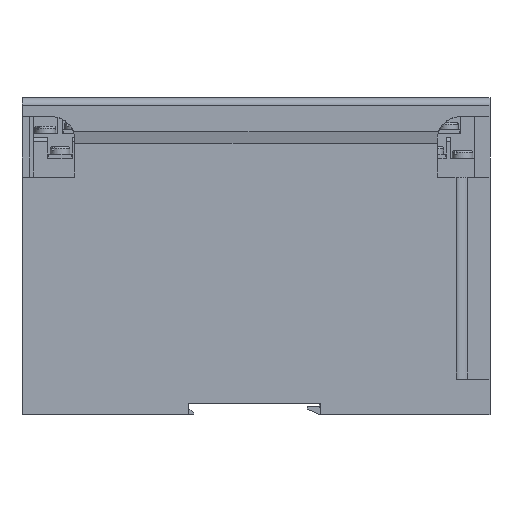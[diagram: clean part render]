
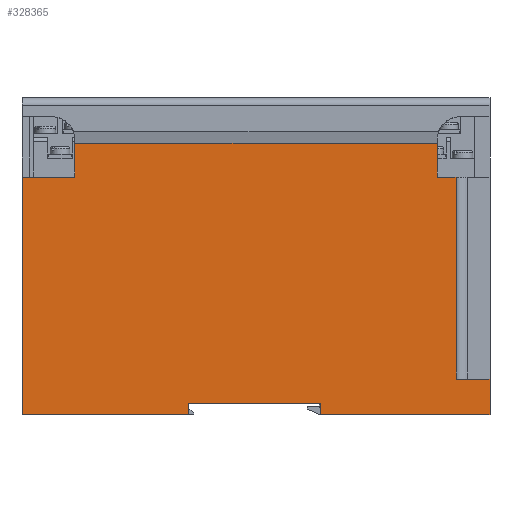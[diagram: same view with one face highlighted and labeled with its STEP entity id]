
A CAD part, left-side view. The second image highlights one B-rep face of the part: STEP entity #328365.
In plain terms, the highlighted planar face has unit normal (-1, 0, 0).
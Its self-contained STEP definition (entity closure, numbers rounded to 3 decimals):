
#834 = VERTEX_POINT ( 'NONE', #414222 ) ;
#7933 = EDGE_CURVE ( 'NONE', #110928, #61421, #341627, .T. ) ;
#12818 = LINE ( 'NONE', #348742, #239917 ) ;
#14065 = CARTESIAN_POINT ( 'NONE',  ( -52.5, 110., 72. ) ) ;
#14169 = EDGE_CURVE ( 'NONE', #77031, #338406, #403733, .T. ) ;
#16074 = EDGE_LOOP ( 'NONE', ( #257145, #261498, #347601, #30390, #51347, #343280, #412322, #134160, #89285, #329734, #202157, #258445, #170544, #395164 ) ) ;
#18029 = EDGE_CURVE ( 'NONE', #64920, #262739, #39660, .T. ) ;
#24017 = VECTOR ( 'NONE', #285442, 1000. ) ;
#25342 = CARTESIAN_POINT ( 'NONE',  ( -52.5, 0., 84. ) ) ;
#28852 = VECTOR ( 'NONE', #147006, 1000. ) ;
#30390 = ORIENTED_EDGE ( 'NONE', *, *, #7933, .T. ) ;
#31669 = LINE ( 'NONE', #358726, #264518 ) ;
#32702 = VECTOR ( 'NONE', #136306, 1000. ) ;
#37674 = EDGE_CURVE ( 'NONE', #282226, #419382, #92236, .T. ) ;
#39660 = LINE ( 'NONE', #286192, #28852 ) ;
#47182 = CARTESIAN_POINT ( 'NONE',  ( -52.5, 45., 3. ) ) ;
#48442 = DIRECTION ( 'NONE',  ( 0., 0., -1. ) ) ;
#50079 = EDGE_CURVE ( 'NONE', #123534, #77031, #12818, .T. ) ;
#50552 = CARTESIAN_POINT ( 'NONE',  ( -52.5, 110., 72. ) ) ;
#51347 = ORIENTED_EDGE ( 'NONE', *, *, #405281, .T. ) ;
#55424 = CARTESIAN_POINT ( 'NONE',  ( -52.5, 80., 0. ) ) ;
#60797 = CARTESIAN_POINT ( 'NONE',  ( -52.5, 110., 72. ) ) ;
#61421 = VERTEX_POINT ( 'NONE', #143880 ) ;
#64788 = CARTESIAN_POINT ( 'NONE',  ( -52.5, 0., 0. ) ) ;
#64920 = VERTEX_POINT ( 'NONE', #204082 ) ;
#77031 = VERTEX_POINT ( 'NONE', #314092 ) ;
#82769 = EDGE_CURVE ( 'NONE', #420442, #282226, #31669, .T. ) ;
#84180 = CARTESIAN_POINT ( 'NONE',  ( -52.5, 45., 3. ) ) ;
#84481 = CARTESIAN_POINT ( 'NONE',  ( -52.5, 0., 0. ) ) ;
#87277 = LINE ( 'NONE', #64788, #173807 ) ;
#89285 = ORIENTED_EDGE ( 'NONE', *, *, #18029, .T. ) ;
#92236 = LINE ( 'NONE', #194171, #32702 ) ;
#95395 = VECTOR ( 'NONE', #194078, 1000. ) ;
#95518 = VERTEX_POINT ( 'NONE', #55424 ) ;
#98196 = LINE ( 'NONE', #316410, #173828 ) ;
#108280 = LINE ( 'NONE', #211743, #319191 ) ;
#110928 = VERTEX_POINT ( 'NONE', #84180 ) ;
#111194 = VECTOR ( 'NONE', #425215, 1000. ) ;
#123534 = VERTEX_POINT ( 'NONE', #354463 ) ;
#134160 = ORIENTED_EDGE ( 'NONE', *, *, #168312, .T. ) ;
#136306 = DIRECTION ( 'NONE',  ( 0., 0., -1. ) ) ;
#136559 = CARTESIAN_POINT ( 'NONE',  ( -52.5, 124., 63. ) ) ;
#140266 = CARTESIAN_POINT ( 'NONE',  ( -52.5, 0., 0. ) ) ;
#143880 = CARTESIAN_POINT ( 'NONE',  ( -52.5, 45., 0. ) ) ;
#144276 = VECTOR ( 'NONE', #48442, 1000. ) ;
#147006 = DIRECTION ( 'NONE',  ( 0., 1., 0. ) ) ;
#147755 = CARTESIAN_POINT ( 'NONE',  ( -52.5, 9., 9.5 ) ) ;
#160619 = CARTESIAN_POINT ( 'NONE',  ( -52.5, 0., 84. ) ) ;
#161602 = DIRECTION ( 'NONE',  ( 0., -1., 0. ) ) ;
#162826 = EDGE_CURVE ( 'NONE', #356361, #420442, #386980, .T. ) ;
#164726 = DIRECTION ( 'NONE',  ( 0., -1., 0. ) ) ;
#168312 = EDGE_CURVE ( 'NONE', #123534, #64920, #170340, .T. ) ;
#170340 = LINE ( 'NONE', #147755, #24017 ) ;
#170544 = ORIENTED_EDGE ( 'NONE', *, *, #82769, .T. ) ;
#173807 = VECTOR ( 'NONE', #164726, 1000. ) ;
#173828 = VECTOR ( 'NONE', #349625, 1000. ) ;
#178365 = EDGE_CURVE ( 'NONE', #834, #262739, #98196, .T. ) ;
#179899 = CARTESIAN_POINT ( 'NONE',  ( -52.5, 110., 63. ) ) ;
#194078 = DIRECTION ( 'NONE',  ( 0., 0., -1. ) ) ;
#194171 = CARTESIAN_POINT ( 'NONE',  ( -52.5, 124., 84. ) ) ;
#202157 = ORIENTED_EDGE ( 'NONE', *, *, #403414, .F. ) ;
#204082 = CARTESIAN_POINT ( 'NONE',  ( -52.5, 9., 63. ) ) ;
#211743 = CARTESIAN_POINT ( 'NONE',  ( -52.5, 80., 3. ) ) ;
#223709 = LINE ( 'NONE', #84481, #283081 ) ;
#224478 = AXIS2_PLACEMENT_3D ( 'NONE', #25342, #333877, #373004 ) ;
#239917 = VECTOR ( 'NONE', #314008, 1000. ) ;
#247286 = LINE ( 'NONE', #255857, #144276 ) ;
#254883 = VERTEX_POINT ( 'NONE', #429472 ) ;
#255857 = CARTESIAN_POINT ( 'NONE',  ( -52.5, 80., 3. ) ) ;
#257145 = ORIENTED_EDGE ( 'NONE', *, *, #387486, .T. ) ;
#258445 = ORIENTED_EDGE ( 'NONE', *, *, #162826, .T. ) ;
#261498 = ORIENTED_EDGE ( 'NONE', *, *, #401054, .F. ) ;
#262739 = VERTEX_POINT ( 'NONE', #372928 ) ;
#264518 = VECTOR ( 'NONE', #354257, 1000. ) ;
#271218 = EDGE_CURVE ( 'NONE', #110928, #254883, #108280, .T. ) ;
#281776 = FACE_OUTER_BOUND ( 'NONE', #16074, .T. ) ;
#282226 = VERTEX_POINT ( 'NONE', #136559 ) ;
#283081 = VECTOR ( 'NONE', #161602, 1000. ) ;
#285442 = DIRECTION ( 'NONE',  ( 0., 0., 1. ) ) ;
#286192 = CARTESIAN_POINT ( 'NONE',  ( -52.5, 0., 63. ) ) ;
#306071 = LINE ( 'NONE', #14065, #111194 ) ;
#314008 = DIRECTION ( 'NONE',  ( 0., -1., 0. ) ) ;
#314092 = CARTESIAN_POINT ( 'NONE',  ( -52.5, 0., 9.5 ) ) ;
#315926 = DIRECTION ( 'NONE',  ( 0., 1., 0. ) ) ;
#316410 = CARTESIAN_POINT ( 'NONE',  ( -52.5, 14., 72. ) ) ;
#316814 = VECTOR ( 'NONE', #338979, 1000. ) ;
#319191 = VECTOR ( 'NONE', #315926, 1000. ) ;
#328365 = ADVANCED_FACE ( 'NONE', ( #281776 ), #443981, .F. ) ;
#329734 = ORIENTED_EDGE ( 'NONE', *, *, #178365, .F. ) ;
#333877 = DIRECTION ( 'NONE',  ( 1., 0., 0. ) ) ;
#338406 = VERTEX_POINT ( 'NONE', #140266 ) ;
#338979 = DIRECTION ( 'NONE',  ( 0., 0., -1. ) ) ;
#341627 = LINE ( 'NONE', #47182, #389631 ) ;
#343280 = ORIENTED_EDGE ( 'NONE', *, *, #14169, .F. ) ;
#347601 = ORIENTED_EDGE ( 'NONE', *, *, #271218, .F. ) ;
#348742 = CARTESIAN_POINT ( 'NONE',  ( -52.5, 0., 9.5 ) ) ;
#349625 = DIRECTION ( 'NONE',  ( 0., 0., -1. ) ) ;
#354257 = DIRECTION ( 'NONE',  ( 0., 1., 0. ) ) ;
#354463 = CARTESIAN_POINT ( 'NONE',  ( -52.5, 9., 9.5 ) ) ;
#356361 = VERTEX_POINT ( 'NONE', #50552 ) ;
#358726 = CARTESIAN_POINT ( 'NONE',  ( -52.5, 0., 63. ) ) ;
#372928 = CARTESIAN_POINT ( 'NONE',  ( -52.5, 14., 63. ) ) ;
#373004 = DIRECTION ( 'NONE',  ( 0., 0., -1. ) ) ;
#376504 = CARTESIAN_POINT ( 'NONE',  ( -52.5, 124., 0. ) ) ;
#386980 = LINE ( 'NONE', #60797, #316814 ) ;
#387486 = EDGE_CURVE ( 'NONE', #419382, #95518, #223709, .T. ) ;
#389631 = VECTOR ( 'NONE', #391832, 1000. ) ;
#391832 = DIRECTION ( 'NONE',  ( 0., 0., -1. ) ) ;
#395164 = ORIENTED_EDGE ( 'NONE', *, *, #37674, .T. ) ;
#401054 = EDGE_CURVE ( 'NONE', #254883, #95518, #247286, .T. ) ;
#403414 = EDGE_CURVE ( 'NONE', #356361, #834, #306071, .T. ) ;
#403733 = LINE ( 'NONE', #160619, #95395 ) ;
#405281 = EDGE_CURVE ( 'NONE', #61421, #338406, #87277, .T. ) ;
#412322 = ORIENTED_EDGE ( 'NONE', *, *, #50079, .F. ) ;
#414222 = CARTESIAN_POINT ( 'NONE',  ( -52.5, 14., 72. ) ) ;
#419382 = VERTEX_POINT ( 'NONE', #376504 ) ;
#420442 = VERTEX_POINT ( 'NONE', #179899 ) ;
#425215 = DIRECTION ( 'NONE',  ( 0., -1., 0. ) ) ;
#429472 = CARTESIAN_POINT ( 'NONE',  ( -52.5, 80., 3. ) ) ;
#443981 = PLANE ( 'NONE',  #224478 ) ;
